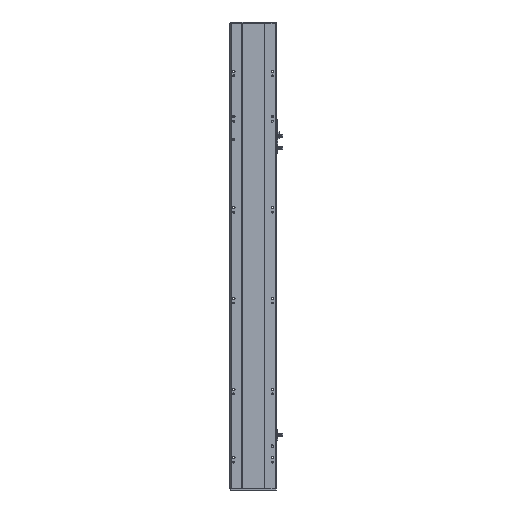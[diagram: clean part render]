
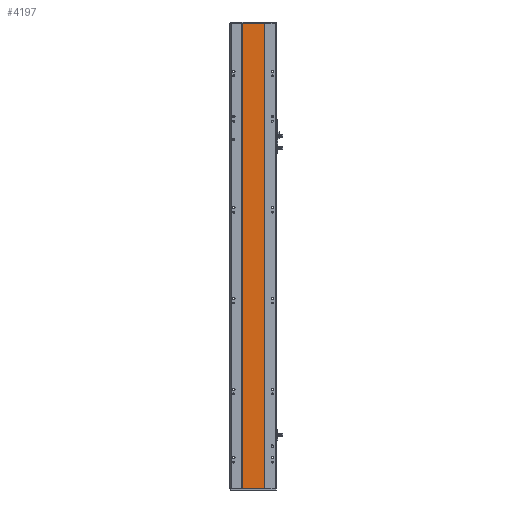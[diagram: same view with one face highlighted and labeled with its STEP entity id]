
A CAD part, front view. The second image highlights one B-rep face of the part: STEP entity #4197.
In plain terms, the highlighted planar face has unit normal (0, -1, 0).
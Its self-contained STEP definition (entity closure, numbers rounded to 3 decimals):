
#535 = CARTESIAN_POINT ( 'NONE',  ( 1578.112, 224.394, 0. ) ) ;
#622 = LINE ( 'NONE', #535, #7372 ) ;
#985 = CARTESIAN_POINT ( 'NONE',  ( 1626.698, 224.394, 1024. ) ) ;
#1772 = DIRECTION ( 'NONE',  ( 1., 0., 0. ) ) ;
#2805 = VERTEX_POINT ( 'NONE', #8047 ) ;
#3316 = VECTOR ( 'NONE', #1772, 1000. ) ;
#4169 = EDGE_LOOP ( 'NONE', ( #11560, #18330, #16172, #17524 ) ) ;
#4197 = ADVANCED_FACE ( 'NONE', ( #15891 ), #5661, .F. ) ;
#5572 = DIRECTION ( 'NONE',  ( 0., 1., 0. ) ) ;
#5661 = PLANE ( 'NONE',  #8907 ) ;
#5818 = VERTEX_POINT ( 'NONE', #985 ) ;
#6435 = CARTESIAN_POINT ( 'NONE',  ( 1626.698, 224.394, 1024. ) ) ;
#6555 = EDGE_CURVE ( 'NONE', #12443, #6777, #8113, .T. ) ;
#6777 = VERTEX_POINT ( 'NONE', #15056 ) ;
#7372 = VECTOR ( 'NONE', #7809, 1000. ) ;
#7438 = VECTOR ( 'NONE', #10910, 1000. ) ;
#7788 = LINE ( 'NONE', #15038, #3316 ) ;
#7809 = DIRECTION ( 'NONE',  ( 1., 0., 0. ) ) ;
#8047 = CARTESIAN_POINT ( 'NONE',  ( 1626.698, 224.394, 0. ) ) ;
#8113 = LINE ( 'NONE', #9312, #16160 ) ;
#8147 = LINE ( 'NONE', #6435, #7438 ) ;
#8907 = AXIS2_PLACEMENT_3D ( 'NONE', #13019, #5572, #17276 ) ;
#9312 = CARTESIAN_POINT ( 'NONE',  ( 1578.112, 224.394, 1024. ) ) ;
#10910 = DIRECTION ( 'NONE',  ( 0., 0., -1. ) ) ;
#11560 = ORIENTED_EDGE ( 'NONE', *, *, #13343, .T. ) ;
#12443 = VERTEX_POINT ( 'NONE', #18999 ) ;
#13019 = CARTESIAN_POINT ( 'NONE',  ( 1578.112, 224.394, 1024. ) ) ;
#13343 = EDGE_CURVE ( 'NONE', #6777, #2805, #622, .T. ) ;
#14888 = EDGE_CURVE ( 'NONE', #5818, #2805, #8147, .T. ) ;
#15038 = CARTESIAN_POINT ( 'NONE',  ( 1578.112, 224.394, 1024. ) ) ;
#15056 = CARTESIAN_POINT ( 'NONE',  ( 1578.112, 224.394, 0. ) ) ;
#15891 = FACE_OUTER_BOUND ( 'NONE', #4169, .T. ) ;
#16160 = VECTOR ( 'NONE', #16829, 1000. ) ;
#16172 = ORIENTED_EDGE ( 'NONE', *, *, #18952, .F. ) ;
#16829 = DIRECTION ( 'NONE',  ( 0., 0., -1. ) ) ;
#17276 = DIRECTION ( 'NONE',  ( 0., 0., 1. ) ) ;
#17524 = ORIENTED_EDGE ( 'NONE', *, *, #6555, .T. ) ;
#18330 = ORIENTED_EDGE ( 'NONE', *, *, #14888, .F. ) ;
#18952 = EDGE_CURVE ( 'NONE', #12443, #5818, #7788, .T. ) ;
#18999 = CARTESIAN_POINT ( 'NONE',  ( 1578.112, 224.394, 1024. ) ) ;
